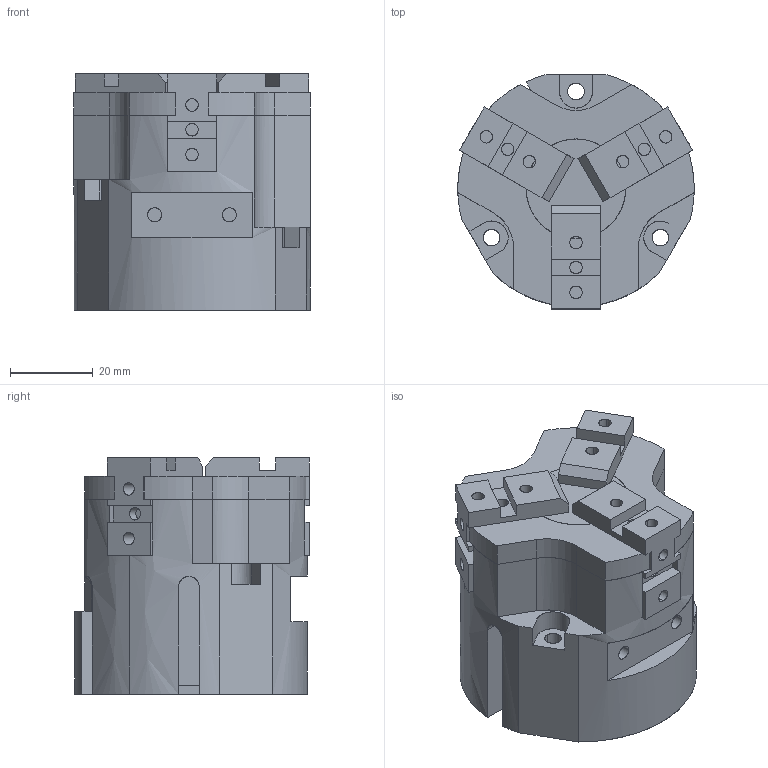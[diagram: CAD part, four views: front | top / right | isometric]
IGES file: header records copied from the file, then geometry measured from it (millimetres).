
Global section: file name: C:\Documents and Settings\Administrateur\Mes documents\OPE-60-3-CLOSED.igs; native system: AutoCAD-16.0s (LMS Tech) (Microsoft Windows NT Version 5.1 (x86)); preprocessor: Autodesk IGES Translator Mechanical Desktop.R7.0.43.0 (Mar 18 2003) from Autodesk, Inc.; date: 20051205.105118; units: millimetre
Bounding box: 57 x 56.5 x 57 mm (x, y, z)
Surface area: 35827.9 mm2 (no closed solid volume)
Topology: 0 solids, 0 shells, 304 faces, 3194 edges, 3262 vertices
Faces by surface type: bspline 304
